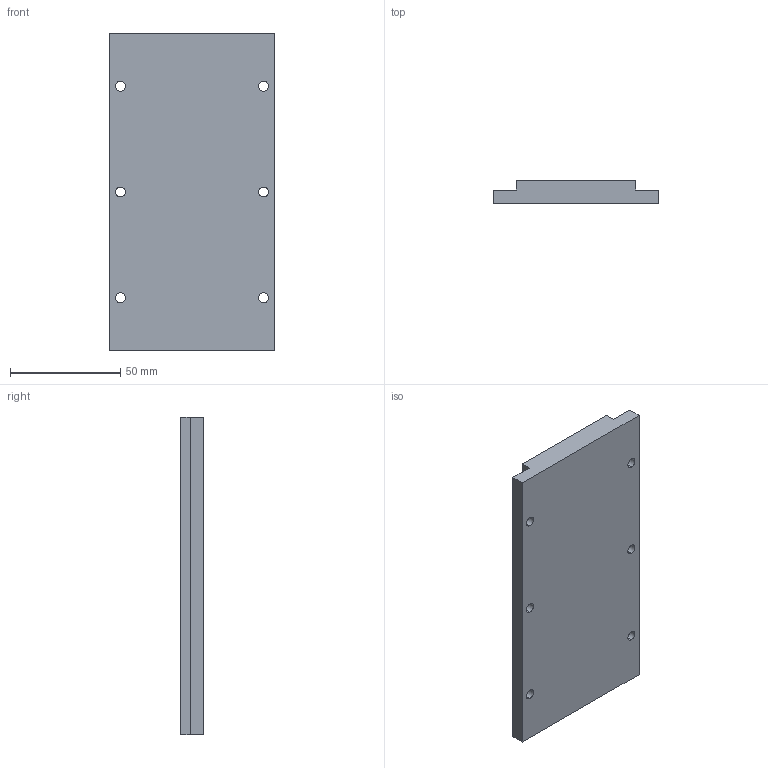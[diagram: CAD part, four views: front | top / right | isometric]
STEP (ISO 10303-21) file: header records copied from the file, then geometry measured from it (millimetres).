
FILE_DESCRIPTION (( 'STEP AP214' ), '1' );
FILE_NAME ('TLT-75-L144.STEP', '2022-04-13T09:12:35', ( 'Microsoft' ), ( 'Microsoft' ), 'SwSTEP 2.0', 'SolidWorks 2016', '' );
FILE_SCHEMA (( 'AUTOMOTIVE_DESIGN' ));
Length unit declared in the file: millimetre
Products named in the file (1): TLT-75-L144
Bounding box: 75 x 10.5 x 144 mm (x, y, z)
Volume: 99219.4 mm3; surface area: 26328.1 mm2
Topology: 1 solids, 1 shells, 22 faces, 60 edges, 40 vertices
Faces by surface type: cylinder 12, plane 10
Entity records: 766 total; most frequent: DIRECTION 130, CARTESIAN_POINT 123, ORIENTED_EDGE 120, EDGE_CURVE 60, AXIS2_PLACEMENT_3D 47, VERTEX_POINT 40, VECTOR 36, LINE 36
